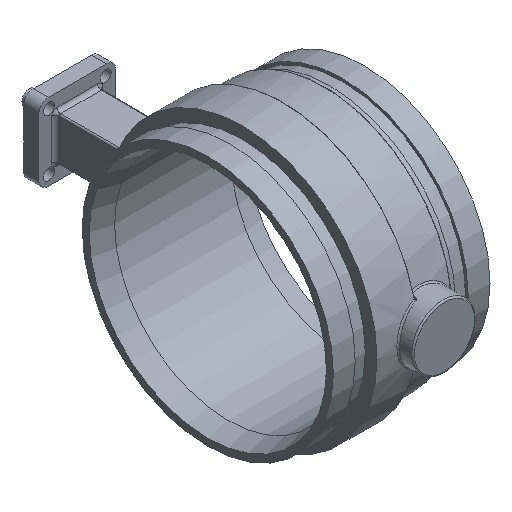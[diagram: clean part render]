
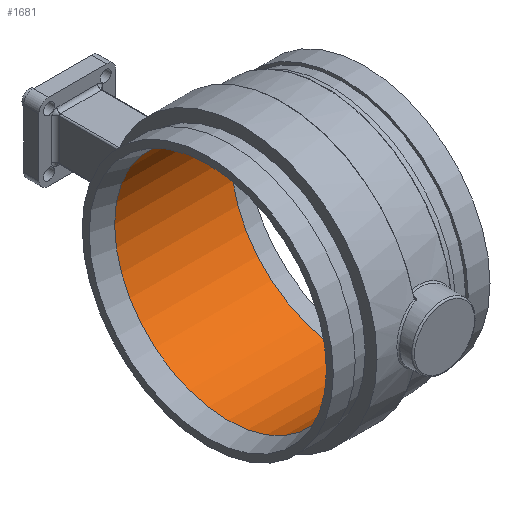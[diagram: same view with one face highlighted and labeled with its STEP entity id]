
A CAD part, isometric view. The second image highlights one B-rep face of the part: STEP entity #1681.
In plain terms, the highlighted cylindrical face has radius 98.806 mm (diameter 197.612 mm), a full revolution.
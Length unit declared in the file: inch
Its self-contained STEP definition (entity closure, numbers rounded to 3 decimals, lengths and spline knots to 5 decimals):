
#255=FACE_OUTER_BOUND('',#368,.T.);
#368=EDGE_LOOP('',(#1445,#1446,#1447,#1448,#1449,#1450));
#436=LINE('',#3580,#504);
#504=VECTOR('',#2381,3.89);
#602=CIRCLE('',#1865,3.89);
#605=CIRCLE('',#1868,3.89);
#624=CIRCLE('',#1898,3.89);
#625=CIRCLE('',#1899,3.89);
#743=VERTEX_POINT('',#3514);
#744=VERTEX_POINT('',#3515);
#765=VERTEX_POINT('',#3574);
#766=VERTEX_POINT('',#3576);
#964=EDGE_CURVE('',#743,#744,#602,.T.);
#968=EDGE_CURVE('',#744,#743,#605,.T.);
#992=EDGE_CURVE('',#766,#765,#624,.T.);
#993=EDGE_CURVE('',#765,#766,#625,.T.);
#994=EDGE_CURVE('',#765,#744,#436,.T.);
#1445=ORIENTED_EDGE('',*,*,#992,.T.);
#1446=ORIENTED_EDGE('',*,*,#994,.T.);
#1447=ORIENTED_EDGE('',*,*,#964,.F.);
#1448=ORIENTED_EDGE('',*,*,#968,.F.);
#1449=ORIENTED_EDGE('',*,*,#994,.F.);
#1450=ORIENTED_EDGE('',*,*,#993,.T.);
#1487=CYLINDRICAL_SURFACE('',#1900,3.89);
#1681=ADVANCED_FACE('',(#255),#1487,.F.);
#1865=AXIS2_PLACEMENT_3D('',#3516,#2303,#2304);
#1868=AXIS2_PLACEMENT_3D('',#3522,#2310,#2311);
#1898=AXIS2_PLACEMENT_3D('',#3577,#2375,#2376);
#1899=AXIS2_PLACEMENT_3D('',#3578,#2377,#2378);
#1900=AXIS2_PLACEMENT_3D('',#3579,#2379,#2380);
#2303=DIRECTION('center_axis',(1.,0.,0.));
#2304=DIRECTION('ref_axis',(0.,0.,1.));
#2310=DIRECTION('center_axis',(1.,0.,0.));
#2311=DIRECTION('ref_axis',(0.,0.,1.));
#2375=DIRECTION('center_axis',(1.,0.,0.));
#2376=DIRECTION('ref_axis',(0.,0.,1.));
#2377=DIRECTION('center_axis',(1.,0.,0.));
#2378=DIRECTION('ref_axis',(0.,0.,1.));
#2379=DIRECTION('center_axis',(1.,0.,0.));
#2380=DIRECTION('ref_axis',(0.,1.,0.));
#2381=DIRECTION('',(-1.,0.,0.));
#3514=CARTESIAN_POINT('',(-2.31,3.89,0.));
#3515=CARTESIAN_POINT('',(-2.31,-3.89,0.));
#3516=CARTESIAN_POINT('Origin',(-2.31,0.,0.));
#3522=CARTESIAN_POINT('Origin',(-2.31,0.,0.));
#3574=CARTESIAN_POINT('',(1.69,-3.89,0.));
#3576=CARTESIAN_POINT('',(1.69,3.89,0.));
#3577=CARTESIAN_POINT('Origin',(1.69,0.,0.));
#3578=CARTESIAN_POINT('Origin',(1.69,0.,0.));
#3579=CARTESIAN_POINT('Origin',(0.69,0.,0.));
#3580=CARTESIAN_POINT('',(0.69,-3.89,0.));
